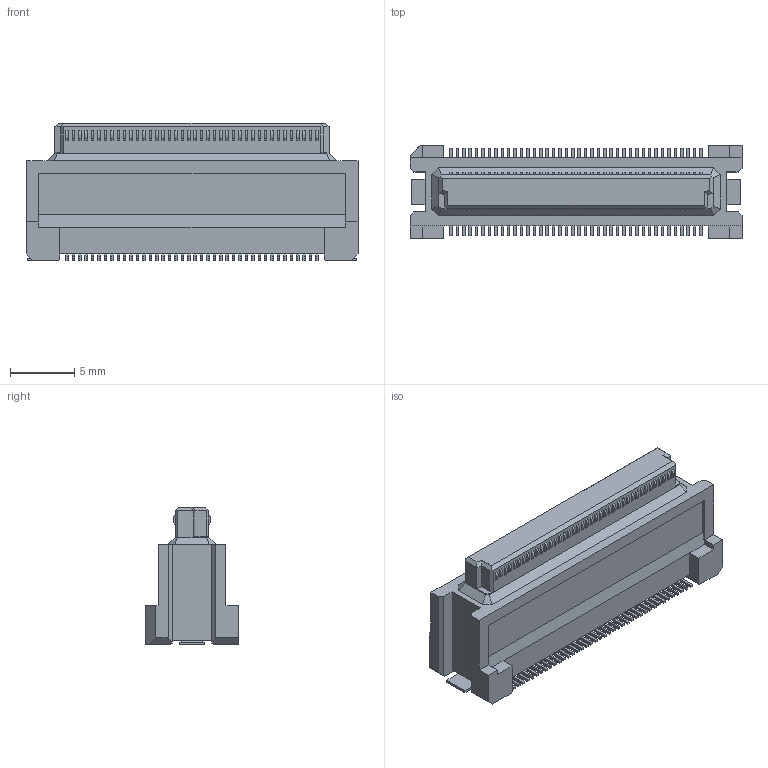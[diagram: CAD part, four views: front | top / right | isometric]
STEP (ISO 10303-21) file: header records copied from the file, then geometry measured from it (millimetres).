
FILE_DESCRIPTION(('Creo Elements/Direct Modeling STEP Export'),'2;1');
FILE_NAME('DY10-080FS-2.stp','2017-11-28T11:07:33',(''),(''),'Creo Elements/Direct Modeling STEP processor for AP214 (Solid Model)','Creo Elements/Direct Modeling 19.0F 14-Feb-2017 (C) Parametric Technology GmbH','');
FILE_SCHEMA(('AUTOMOTIVE_DESIGN { 1 0 10303 214 1 1 1 1 }'));
Length unit declared in the file: millimetre
Products named in the file (2): DY10-080FS-2
Assembly tree (1 placements, depth 2):
  DY10-080FS-2
    DY10-080FS-2
Bounding box: 25.9 x 7.3 x 10.73 mm (x, y, z)
Volume: 1051.2 mm3; surface area: 1093.4 mm2
Topology: 1 solids, 1 shells, 1196 faces, 3293 edges, 2182 vertices
Faces by surface type: plane 862, cylinder 326, bspline 8
Entity records: 37867 total; most frequent: CARTESIAN_POINT 7734, ORIENTED_EDGE 6586, DIRECTION 5813, EDGE_CURVE 3293, VECTOR 2611, LINE 2611, VERTEX_POINT 2182, AXIS2_PLACEMENT_3D 1601
